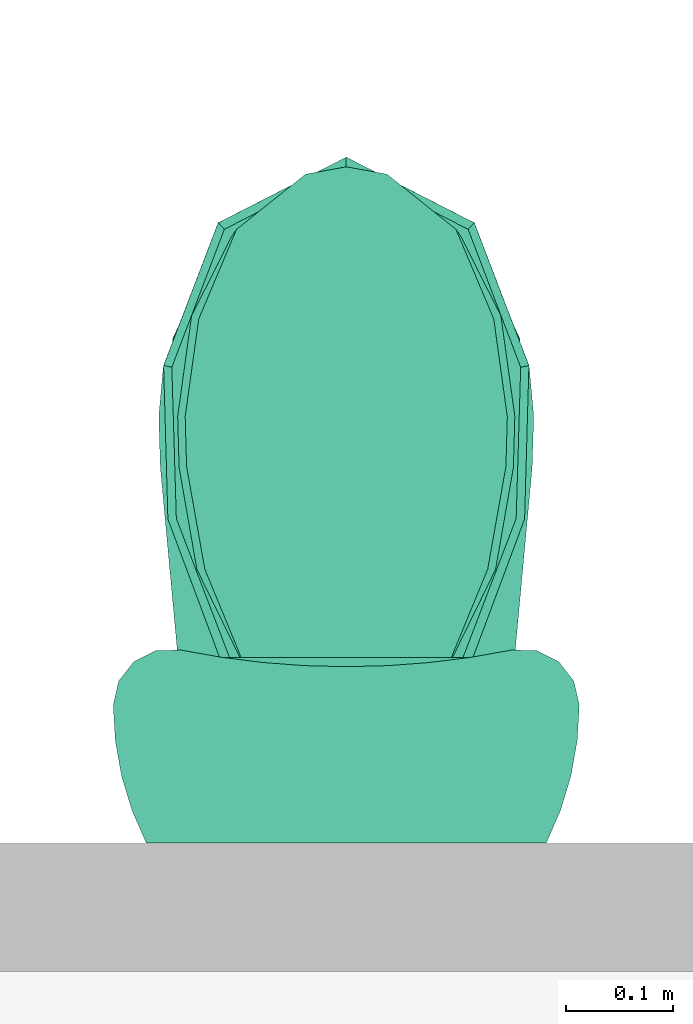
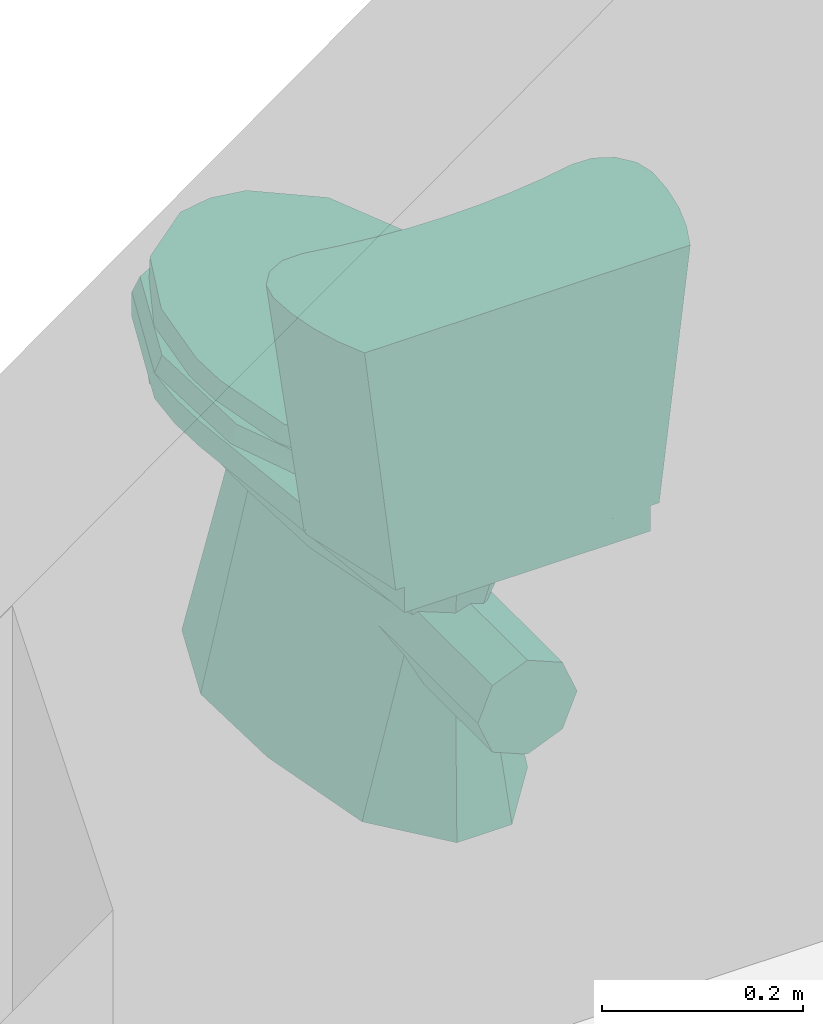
# One storey, part 37 of 48: 1 distribution flow element.
"""IFC2X3 building model written with IfcOpenShell, lengths in millimetres."""

from ifc_helpers import new_model, entity, si_unit, converted_unit, derived_unit, money_unit, direction, frame, origin_with_axes, place, context, subcontext, project, spatial, open_shell, faceted_brep, surface_model, source, transform, mapped, type_object, element, save


model = new_model("IFC2X3")

# Units and contexts
model_context = context("Model", 3, precision=0.01, world=origin_with_axes(), true_north=direction((0.0, 1.0)))
body_context = subcontext(model_context, "Body", "Model", "MODEL_VIEW")
ifc_project = project(units=[si_unit("LENGTHUNIT", "METRE", prefix="MILLI"), si_unit("AREAUNIT", "SQUARE_METRE"), si_unit("VOLUMEUNIT", "CUBIC_METRE"), converted_unit("PLANEANGLEUNIT", "DEGREE", entity("IfcPlaneAngleMeasure", 0.0174532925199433), si_unit("PLANEANGLEUNIT", "RADIAN"), dimensions=[0, 0, 0, 0, 0, 0, 0]), money_unit("USD"), converted_unit("TIMEUNIT", "Year", entity("IfcTimeMeasure", 31557600.0), si_unit("TIMEUNIT", "SECOND"), dimensions=[0, 0, 1, 0, 0, 0, 0]), si_unit("MASSUNIT", "GRAM", prefix="KILO"), si_unit("THERMODYNAMICTEMPERATUREUNIT", "DEGREE_CELSIUS"), si_unit("LUMINOUSINTENSITYUNIT", "LUMEN"), si_unit("ENERGYUNIT", "JOULE", prefix="MEGA"), derived_unit("THERMALCONDUCTANCEUNIT", [(si_unit("POWERUNIT", "WATT"), 1), (si_unit("LENGTHUNIT", "METRE"), -1), (si_unit("THERMODYNAMICTEMPERATUREUNIT", "KELVIN"), -1)]), derived_unit("SPECIFICHEATCAPACITYUNIT", [(si_unit("ENERGYUNIT", "JOULE"), 1), (si_unit("MASSUNIT", "GRAM", prefix="KILO"), -1), (si_unit("THERMODYNAMICTEMPERATUREUNIT", "KELVIN"), -1)]), derived_unit("MASSDENSITYUNIT", [(si_unit("MASSUNIT", "GRAM", prefix="KILO"), 1), (si_unit("VOLUMEUNIT", "CUBIC_METRE"), -1)])], contexts=[model_context])

# Site, building, storey
site_placement = place(None, origin_with_axes())
site = spatial("IfcSite", under=ifc_project, at=site_placement, Name="Site", CompositionType="ELEMENT")
building_placement = place(site_placement, origin_with_axes())
building = spatial("IfcBuilding", under=site, at=building_placement, Name="Building", CompositionType="ELEMENT")
storey_placement = place(building_placement, frame((0.0, 0.0, 3300.0), z_axis=(0.0, 0.0, 1.0), x_axis=(1.0, 0.0, 0.0)))
storey = spatial("IfcBuildingStorey", under=building, at=storey_placement, Name="1 ETG", CompositionType="ELEMENT", Elevation=3300.0)

# Distribution flow element
valve_type = type_object("IfcValveType", Name="WC", PredefinedType="USERDEFINED")
shared_shape = source(origin_with_axes(), body_context, "Body", "SurfaceModel", [
    faceted_brep([(40.30508652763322, -205.7142857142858, 245.4332916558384), (0.0, -205.7142857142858, 262.1282051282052), (-40.30508652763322, -205.7142857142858, 245.4332916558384), (-57.00000000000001, -205.7142857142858, 205.1282051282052), (-40.30508652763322, -205.7142857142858, 164.823118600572), (0.0, -205.7142857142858, 148.1282051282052), (40.30508652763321, -205.7142857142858, 164.823118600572), (57.0, -205.7142857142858, 205.1282051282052), (40.30508652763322, 0.0, 245.4332916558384), (0.0, 0.0, 262.1282051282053), (-40.30508652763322, 0.0, 245.4332916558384), (-57.00000000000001, 0.0, 205.1282051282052), (-40.30508652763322, 0.0, 164.823118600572), (0.0, 0.0, 148.1282051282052), (40.30508652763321, 0.0, 164.823118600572), (57.0, 0.0, 205.1282051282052)], [[[0, 1, 2, 3, 4, 5, 6, 7]], [[1, 0, 8, 9]], [[2, 1, 9, 10]], [[3, 2, 10, 11]], [[4, 3, 11, 12]], [[5, 4, 12, 13]], [[6, 5, 13, 14]], [[7, 6, 14, 15]], [[0, 7, 15, 8]], [[8, 15, 14, 13, 12, 11, 10, 9]]]),
    surface_model("IfcShellBasedSurfaceModel", [(84.12941176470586, -541.2264773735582, 0.0), (123.3490196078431, -435.6917834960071, 0.0), (75.02254901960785, -425.689157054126, 235.8974358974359), (0.0, -584.3319254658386, 0.0), (-84.12941176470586, -541.2264773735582, 0.0), (-123.3490196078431, -435.6917834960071, 0.0), (-120.4490196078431, -307.7678793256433, 0.0), (-95.01078431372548, -164.0364862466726, 0.0), (-31.65098039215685, -85.44312333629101, 0.0), (31.65098039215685, -85.44312333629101, 0.0), (95.01078431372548, -164.0364862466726, 0.0), (120.4490196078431, -307.7678793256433, 0.0), (71.04803921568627, -309.5589707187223, 235.8974358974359), (47.80882352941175, -502.9639041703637, 235.8974358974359), (0.0, -527.4599467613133, 235.8974358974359), (-47.80882352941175, -502.9639041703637, 235.8974358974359), (-75.02254901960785, -425.689157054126, 235.8974358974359), (-71.04803921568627, -309.5589707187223, 235.8974358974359), (-41.58039215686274, -153.6, 235.8974358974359), (-13.7156862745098, -119.9417923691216, 235.8974358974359), (13.7156862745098, -119.9417923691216, 235.8974358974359), (41.58039215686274, -153.6, 235.8974358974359)], [open_shell([[[0, 1, 2]], [[0, 3, 4, 5, 6, 7, 8, 9, 10, 11, 1]], [[1, 12, 2]], [[0, 2, 13]], [[3, 0, 13]], [[4, 3, 14]], [[5, 4, 15]], [[6, 5, 16]], [[7, 6, 17]], [[8, 7, 18]], [[9, 8, 19, 20]], [[10, 9, 20]], [[11, 10, 21]], [[1, 11, 12]], [[3, 13, 14]], [[4, 14, 15]], [[5, 15, 16]], [[6, 16, 17]], [[7, 17, 18]], [[8, 18, 19]], [[10, 20, 21]], [[11, 21, 12]]])]),
    surface_model("IfcShellBasedSurfaceModel", [(47.80882352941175, -502.9639041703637, 235.8974358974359), (75.02254901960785, -425.689157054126, 235.8974358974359), (170.6529411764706, -445.4820230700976, 369.2307692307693), (0.0, -527.4599467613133, 235.8974358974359), (-47.80882352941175, -502.9639041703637, 235.8974358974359), (-75.02254901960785, -425.689157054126, 235.8974358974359), (-71.04803921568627, -309.5589707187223, 235.8974358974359), (-41.58039215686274, -153.6, 235.8974358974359), (-13.7156862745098, -119.9417923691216, 235.8974358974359), (13.7156862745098, -119.9417923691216, 235.8974358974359), (41.58039215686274, -153.6, 235.8974358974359), (71.04803921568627, -309.5589707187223, 235.8974358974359), (164.9843137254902, -294.0524578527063, 369.2307692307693), (119.6803921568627, -578.6781188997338, 369.2307692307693), (0.0, -640.0, 369.2307692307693), (-119.6803921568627, -578.6781188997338, 369.2307692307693), (-170.6529411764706, -445.4820230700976, 369.2307692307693), (-164.9843137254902, -294.051322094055, 369.2307692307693), (-101.8950980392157, -139.959538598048, 369.2307692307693), (-29.25392156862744, -84.95815439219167, 369.2307692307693), (29.25392156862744, -84.95815439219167, 369.2307692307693), (101.8950980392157, -139.959538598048, 369.2307692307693)], [open_shell([[[0, 1, 2]], [[0, 3, 4, 5, 6, 7, 8, 9, 10, 11, 1]], [[1, 12, 2]], [[0, 2, 13]], [[3, 0, 13]], [[4, 3, 14]], [[5, 4, 15]], [[6, 5, 16]], [[7, 6, 17]], [[8, 7, 18]], [[9, 8, 19, 20]], [[10, 9, 20]], [[11, 10, 21]], [[1, 11, 12]], [[3, 13, 14]], [[4, 14, 15]], [[5, 15, 16]], [[6, 16, 17]], [[7, 17, 18]], [[8, 18, 19]], [[10, 20, 21]], [[11, 21, 12]]])]),
    surface_model("IfcShellBasedSurfaceModel", [(45.41838235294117, -515.3940102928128, 276.923076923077), (71.27142156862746, -455.1197075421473, 276.923076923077), (162.1202941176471, -470.5581430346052, 369.2307692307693), (0.0, -534.5009235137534, 276.923076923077), (-45.41838235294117, -515.3940102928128, 276.923076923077), (-71.27142156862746, -455.1197075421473, 276.923076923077), (-67.49563725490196, -364.5381622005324, 276.923076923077), (-39.50137254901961, -242.890165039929, 276.923076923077), (-13.02990196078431, -216.6367630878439, 276.923076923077), (13.02990196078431, -216.6367630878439, 276.923076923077), (39.50137254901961, -242.890165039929, 276.923076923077), (67.49563725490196, -364.5381622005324, 276.923076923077), (156.7350980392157, -352.4430821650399, 369.2307692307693), (113.6963725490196, -574.4510977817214, 369.2307692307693), (0.0, -622.282165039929, 369.2307692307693), (-113.6963725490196, -574.4510977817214, 369.2307692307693), (-162.1202941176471, -470.5581430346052, 369.2307692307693), (-156.7350980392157, -352.4421962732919, 369.2307692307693), (-96.8003431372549, -232.2506051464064, 369.2307692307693), (-27.79122549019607, -189.3495254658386, 369.2307692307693), (27.79122549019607, -189.3495254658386, 369.2307692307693), (96.8003431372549, -232.2506051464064, 369.2307692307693)], [open_shell([[[0, 1, 2]], [[0, 3, 4, 5, 6, 7, 8, 9, 10, 11, 1]], [[1, 12, 2]], [[0, 2, 13]], [[3, 0, 13]], [[4, 3, 14]], [[5, 4, 15]], [[6, 5, 16]], [[7, 6, 17]], [[8, 7, 18]], [[9, 8, 19, 20]], [[10, 9, 20]], [[11, 10, 21]], [[1, 11, 12]], [[3, 13, 14]], [[4, 14, 15]], [[5, 15, 16]], [[6, 16, 17]], [[7, 17, 18]], [[8, 18, 19]], [[10, 20, 21]], [[11, 21, 12]]])]),
    faceted_brep([(-175.0058823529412, -398.0504702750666, 369.2307692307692), (-173.5294117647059, -350.3815439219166, 369.2307692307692), (-141.121568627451, 0.002271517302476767, 369.2307692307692), (141.1235294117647, 0.002271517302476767, 369.2307692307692), (173.5294117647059, -350.3815439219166, 369.2307692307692), (175.0058823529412, -398.0504702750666, 369.2307692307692), (170.6529411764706, -445.4820230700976, 369.2307692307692), (119.6803921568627, -578.6781188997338, 369.2307692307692), (0.0, -640.0, 369.2307692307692), (-119.6803921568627, -578.6781188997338, 369.2307692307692), (-170.6529411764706, -445.4820230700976, 369.2307692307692), (83.77627450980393, -540.2867506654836, 369.2307692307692), (119.4570588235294, -447.0494835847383, 369.2307692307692), (122.5041176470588, -413.8473966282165, 369.2307692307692), (121.4705882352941, -380.4791481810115, 369.2307692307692), (98.78647058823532, -230.6142040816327, 369.2307692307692), (-98.78509803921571, -230.6142040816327, 369.2307692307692), (-121.4705882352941, -380.4791481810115, 369.2307692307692), (-122.5041176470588, -413.8473966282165, 369.2307692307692), (-119.4570588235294, -447.0494835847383, 369.2307692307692), (-83.77627450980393, -540.2867506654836, 369.2307692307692), (0.0, -583.21206743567, 369.2307692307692), (-173.5294117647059, -350.3815439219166, 400.0), (-175.0058823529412, -398.0504702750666, 400.0), (-141.121568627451, 0.002271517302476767, 400.0), (141.1235294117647, 0.002271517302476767, 400.0), (173.5294117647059, -350.3815439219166, 400.0), (175.0058823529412, -398.0504702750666, 400.0), (170.6529411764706, -445.4820230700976, 400.0), (119.6803921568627, -578.6781188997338, 400.0), (0.0, -640.0, 400.0), (-119.6803921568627, -578.6781188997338, 400.0), (-170.6529411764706, -445.4820230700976, 400.0), (83.77627450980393, -540.2867506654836, 400.0), (119.4570588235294, -447.0494835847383, 400.0), (122.5041176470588, -413.8473966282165, 400.0), (121.4705882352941, -380.4791481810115, 400.0), (98.78647058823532, -230.6142040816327, 400.0), (-98.78509803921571, -230.6142040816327, 400.0), (-121.4705882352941, -380.4791481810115, 400.0), (-122.5041176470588, -413.8473966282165, 400.0), (-119.4570588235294, -447.0494835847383, 400.0), (-83.77627450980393, -540.2867506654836, 400.0), (0.0, -583.21206743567, 400.0)], [[[0, 1, 2, 3, 4, 5, 6, 7, 8, 9, 10], [11, 12, 13, 14, 15, 16, 17, 18, 19, 20, 21]], [[22, 1, 0, 23]], [[24, 2, 1, 22]], [[25, 3, 2, 24]], [[26, 4, 3, 25]], [[27, 5, 4, 26]], [[28, 6, 5, 27]], [[29, 7, 6, 28]], [[30, 8, 7, 29]], [[31, 9, 8, 30]], [[32, 10, 9, 31]], [[23, 0, 10, 32]], [[33, 34, 12, 11]], [[34, 35, 13, 12]], [[35, 36, 14, 13]], [[36, 37, 15, 14]], [[37, 38, 16, 15]], [[38, 39, 17, 16]], [[39, 40, 18, 17]], [[40, 41, 19, 18]], [[41, 42, 20, 19]], [[42, 43, 21, 20]], [[43, 33, 11, 21]], [[24, 22, 23, 32, 31, 30, 29, 28, 27, 26, 25], [37, 36, 35, 34, 33, 43, 42, 41, 40, 39, 38]]]),
    faceted_brep([(170.4738719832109, -445.482713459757, 400.0), (119.5548093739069, -578.6783365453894, 400.0), (0.0, -640.0, 400.0), (-119.5548093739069, -578.6783365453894, 400.0), (-170.4738719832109, -445.482713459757, 400.0), (-166.4663168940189, -302.2015893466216, 400.0), (-118.2121021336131, -172.9329743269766, 400.0), (118.2121021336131, -172.9329743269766, 400.0), (166.4663168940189, -302.2015893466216, 400.0), (87.07689659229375, -470.8529844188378, 400.0), (94.51085540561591, -436.8872036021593, 400.0), (97.71606496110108, -402.0552291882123, 400.0), (96.61425296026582, -366.5633495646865, 400.0), (90.99294096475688, -327.7648838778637, 400.0), (81.3288631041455, -289.5292657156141, 400.0), (68.75448552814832, -255.390084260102, 400.0), (-68.75412876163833, -255.390084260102, 400.0), (-81.32895397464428, -289.5296252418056, 400.0), (-90.99294096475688, -327.7648838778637, 400.0), (-96.61425296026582, -366.5633495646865, 400.0), (-97.71606496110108, -402.0552291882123, 400.0), (-94.51085540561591, -436.8872036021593, 400.0), (-87.07689659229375, -470.8529844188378, 400.0), (-76.48880040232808, -500.6600804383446, 400.0), (-62.06856874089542, -525.0585284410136, 400.0), (-44.26109835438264, -542.1791505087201, 400.0), (-23.02579943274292, -553.0312015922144, 400.0), (0.0, -556.7479615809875, 400.0), (23.02579943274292, -553.0312015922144, 400.0), (44.26109835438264, -542.1791505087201, 400.0), (62.0685687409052, -525.0585284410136, 400.0), (76.48880040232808, -500.6600804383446, 400.0), (162.8034977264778, -443.8937927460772, 420.0000000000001), (113.7912556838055, -572.5997778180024, 420.0000000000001), (0.0, -630.9650719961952, 420.0000000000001), (-113.7912556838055, -572.5997778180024, 420.0000000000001), (-162.8034977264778, -443.8937927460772, 420.0000000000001), (-158.5902763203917, -302.7808242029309, 420.0000000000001), (-108.940468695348, -172.9329743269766, 420.0000000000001), (108.940468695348, -172.9329743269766, 420.0000000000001), (158.5902763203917, -302.7808242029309, 420.0000000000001), (87.07689659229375, -470.8529844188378, 420.0000000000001), (94.51085540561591, -436.8872036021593, 420.0000000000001), (97.71606496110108, -402.0552291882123, 420.0000000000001), (96.61425296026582, -366.5633495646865, 420.0000000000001), (90.99294096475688, -327.7648838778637, 420.0000000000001), (81.3288631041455, -289.5292657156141, 420.0000000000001), (68.75448552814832, -255.390084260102, 420.0000000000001), (-68.75412876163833, -255.390084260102, 420.0000000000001), (-81.32895397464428, -289.5296252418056, 420.0000000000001), (-90.99294096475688, -327.7648838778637, 420.0000000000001), (-96.61425296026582, -366.5633495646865, 420.0000000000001), (-97.71606496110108, -402.0552291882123, 420.0000000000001), (-94.51085540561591, -436.8872036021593, 420.0000000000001), (-87.07689659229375, -470.8529844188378, 420.0000000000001), (-76.48880040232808, -500.6600804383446, 420.0000000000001), (-62.06856874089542, -525.0585284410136, 420.0000000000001), (-44.26109835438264, -542.1791505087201, 420.0000000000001), (-23.02579943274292, -553.0312015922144, 420.0000000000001), (0.0, -556.7479615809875, 420.0000000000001), (23.02579943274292, -553.0312015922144, 420.0000000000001), (44.26109835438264, -542.1791505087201, 420.0000000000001), (62.0685687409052, -525.0585284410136, 420.0000000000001), (76.48880040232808, -500.6600804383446, 420.0000000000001)], [[[0, 1, 2, 3, 4, 5, 6, 7, 8], [9, 10, 11, 12, 13, 14, 15, 16, 17, 18, 19, 20, 21, 22, 23, 24, 25, 26, 27, 28, 29, 30, 31]], [[1, 0, 32]], [[2, 1, 33]], [[3, 2, 34]], [[4, 3, 35]], [[5, 4, 36]], [[6, 5, 37]], [[6, 38, 39, 7]], [[8, 7, 39]], [[0, 8, 40]], [[41, 42, 10, 9]], [[42, 43, 11, 10]], [[43, 44, 12, 11]], [[44, 45, 13, 12]], [[45, 46, 14, 13]], [[46, 47, 15, 14]], [[47, 48, 16, 15]], [[48, 49, 17, 16]], [[49, 50, 18, 17]], [[50, 51, 19, 18]], [[51, 52, 20, 19]], [[52, 53, 21, 20]], [[53, 54, 22, 21]], [[54, 55, 23, 22]], [[55, 56, 24, 23]], [[56, 57, 25, 24]], [[57, 58, 26, 25]], [[58, 59, 27, 26]], [[59, 60, 28, 27]], [[60, 61, 29, 28]], [[61, 62, 30, 29]], [[62, 63, 31, 30]], [[63, 41, 9, 31]], [[0, 40, 32]], [[1, 32, 33]], [[2, 33, 34]], [[3, 34, 35]], [[4, 35, 36]], [[5, 36, 37]], [[6, 37, 38]], [[38, 37, 36, 35, 34, 33, 32, 40, 39], [45, 44, 43, 42, 41, 63, 62, 61, 60, 59, 58, 57, 56, 55, 54, 53, 52, 51, 50, 49, 48, 47, 46]], [[8, 39, 40]]]),
    faceted_brep([(-107.5993284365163, -565.0492811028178, 420.0000000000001), (-39.85813221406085, -615.7891187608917, 420.0000000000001), (-37.93662119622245, -624.1357794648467, 440.0000000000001), (-144.3504302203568, -491.7260985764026, 420.0000000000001), (-157.3400209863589, -398.0513290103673, 420.0000000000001), (-156.01259181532, -350.3825718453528, 420.0000000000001), (-139.3844700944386, -255.2506291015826, 420.0000000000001), (-99.17339219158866, -172.9329743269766, 420.0000000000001), (99.17339219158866, -172.9329743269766, 420.0000000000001), (139.3844700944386, -255.2506291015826, 420.0000000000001), (156.01259181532, -350.3825718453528, 420.0000000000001), (157.3400209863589, -398.0513290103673, 420.0000000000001), (144.3513116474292, -491.7260985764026, 420.0000000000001), (107.5993284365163, -565.0492811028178, 420.0000000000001), (39.85813221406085, -615.7891187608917, 420.0000000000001), (0.0, -622.9636806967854, 420.0000000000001), (0.0, -630.9650719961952, 440.0000000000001), (-102.412130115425, -572.5997778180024, 440.0000000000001), (-137.6912486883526, -488.8969338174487, 440.0000000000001), (-150.3317943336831, -397.7344534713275, 440.0000000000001), (-149.0405036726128, -351.3456917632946, 440.0000000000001), (-132.0192654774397, -255.5152599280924, 440.0000000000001), (-98.04642182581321, -172.9329743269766, 440.0000000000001), (98.04642182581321, -172.9329743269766, 440.0000000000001), (132.0192654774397, -255.5152599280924, 440.0000000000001), (149.0405036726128, -351.3456917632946, 440.0000000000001), (150.3317943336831, -397.7344534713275, 440.0000000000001), (137.6912486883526, -488.8969338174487, 440.0000000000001), (102.412130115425, -572.5997778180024, 440.0000000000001), (37.93662119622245, -624.1357794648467, 440.0000000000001)], [[[0, 1, 2]], [[0, 3, 4, 5, 6, 7, 8, 9, 10, 11, 12, 13, 14, 15, 1]], [[1, 16, 2]], [[0, 2, 17]], [[3, 0, 17]], [[4, 3, 18]], [[5, 4, 19]], [[6, 5, 20]], [[7, 6, 21]], [[8, 7, 22, 23]], [[9, 8, 23]], [[10, 9, 24]], [[11, 10, 25]], [[12, 11, 26]], [[13, 12, 27]], [[14, 13, 28]], [[15, 14, 29]], [[1, 15, 16]], [[17, 2, 16, 29, 28, 27, 26, 25, 24, 23, 22, 21, 20, 19, 18]], [[3, 17, 18]], [[4, 18, 19]], [[5, 19, 20]], [[6, 20, 21]], [[7, 21, 22]], [[9, 23, 24]], [[10, 24, 25]], [[11, 25, 26]], [[12, 26, 27]], [[13, 27, 28]], [[14, 28, 29]], [[15, 29, 16]]]),
    faceted_brep([(0.001, -126.7509859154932, 400.0), (40.757, -127.7727036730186, 400.0), (38.86899999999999, -165.3933112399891, 700.0), (-40.755, -127.7727036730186, 400.0), (-81.40799999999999, -130.8328583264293, 400.0), (-121.857, -135.925451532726, 400.0), (-162.0, -143.0364871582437, 400.0), (-168.526, -142.899524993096, 400.0), (-174.364, -139.9803314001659, 400.0), (-178.387, -134.8427506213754, 400.0), (-179.821, -128.4765092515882, 400.0), (-172.643, -96.35738193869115, 400.0), (-165.466, -64.23825462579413, 400.0), (-158.288, -32.11912731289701, 400.0), (-151.111, 0.0, 400.0), (151.113, 0.0, 400.0), (158.288, -32.11912731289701, 400.0), (165.467, -64.23825462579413, 400.0), (172.647, -96.35738193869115, 400.0), (179.822, -128.4765092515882, 400.0), (178.389, -134.8427506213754, 400.0), (174.366, -139.9803314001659, 400.0), (168.528, -142.899524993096, 400.0), (162.002, -143.0364871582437, 400.0), (121.859, -135.925451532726, 400.0), (81.40999999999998, -130.8328583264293, 400.0), (77.64, -168.3115051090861, 700.0), (0.001, -164.4195802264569, 700.0), (-38.86799999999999, -165.3933112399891, 700.0), (-77.638, -168.3115051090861, 700.0), (-116.214, -173.1681634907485, 700.0), (-154.499, -179.9502899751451, 700.0), (-177.569, -179.4664236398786, 700.0), (-198.207, -169.1472742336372, 700.0), (-212.431, -150.9822921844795, 700.0), (-217.499, -128.4765092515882, 700.0), (-215.545, -95.22269538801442, 700.0), (-209.709, -62.42675504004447, 700.0), (-200.072, -30.53956365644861, 700.0), (-186.767, 0.0, 700.0), (186.769, 0.0, 700.0), (200.074, -30.53956365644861, 700.0), (209.711, -62.42675504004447, 700.0), (215.547, -95.22269538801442, 700.0), (217.501, -128.4765092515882, 700.0), (212.433, -150.9822921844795, 700.0), (198.209, -169.1472742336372, 700.0), (177.571, -179.4664236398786, 700.0), (154.501, -179.9502899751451, 700.0), (116.216, -173.1681634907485, 700.0)], [[[0, 1, 2]], [[0, 3, 4, 5, 6, 7, 8, 9, 10, 11, 12, 13, 14, 15, 16, 17, 18, 19, 20, 21, 22, 23, 24, 25, 1]], [[1, 26, 2]], [[0, 2, 27]], [[3, 0, 27]], [[4, 3, 28]], [[5, 4, 29]], [[6, 5, 30]], [[7, 6, 31]], [[8, 7, 32]], [[9, 8, 33]], [[10, 9, 34]], [[11, 10, 35]], [[12, 11, 36]], [[13, 12, 37]], [[14, 13, 38]], [[15, 14, 39, 40]], [[16, 15, 40]], [[17, 16, 41]], [[18, 17, 42]], [[19, 18, 43]], [[20, 19, 44]], [[21, 20, 45]], [[22, 21, 46]], [[23, 22, 47]], [[24, 23, 48]], [[25, 24, 49]], [[1, 25, 26]], [[27, 2, 26, 49, 48, 47, 46, 45, 44, 43, 42, 41, 40, 39, 38, 37, 36, 35, 34, 33, 32, 31, 30, 29, 28]], [[3, 27, 28]], [[4, 28, 29]], [[5, 29, 30]], [[6, 30, 31]], [[7, 31, 32]], [[8, 32, 33]], [[9, 33, 34]], [[10, 34, 35]], [[11, 35, 36]], [[12, 36, 37]], [[13, 37, 38]], [[14, 38, 39]], [[16, 40, 41]], [[17, 41, 42]], [[18, 42, 43]], [[19, 43, 44]], [[20, 44, 45]], [[21, 45, 46]], [[22, 46, 47]], [[23, 47, 48]], [[24, 48, 49]], [[25, 49, 26]]]),
])
distribution_flow_element_placement = place(storey_placement, frame((41250.01686713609, 21919.92741028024, 100.0000000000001), z_axis=(0.0, 0.0, 1.0), x_axis=(-1.0, 0.0, 0.0)))
element("IfcDistributionFlowElement", 1, at=distribution_flow_element_placement, inside=storey, type_object=valve_type, Name="FU - 001", ObjectType="Distribution Flow Element", context=body_context, shape_type="MappedRepresentation", body=[
    mapped(shared_shape, transform((0.0, 0.0, 0.0))),
])

save(model, "model.ifc")
